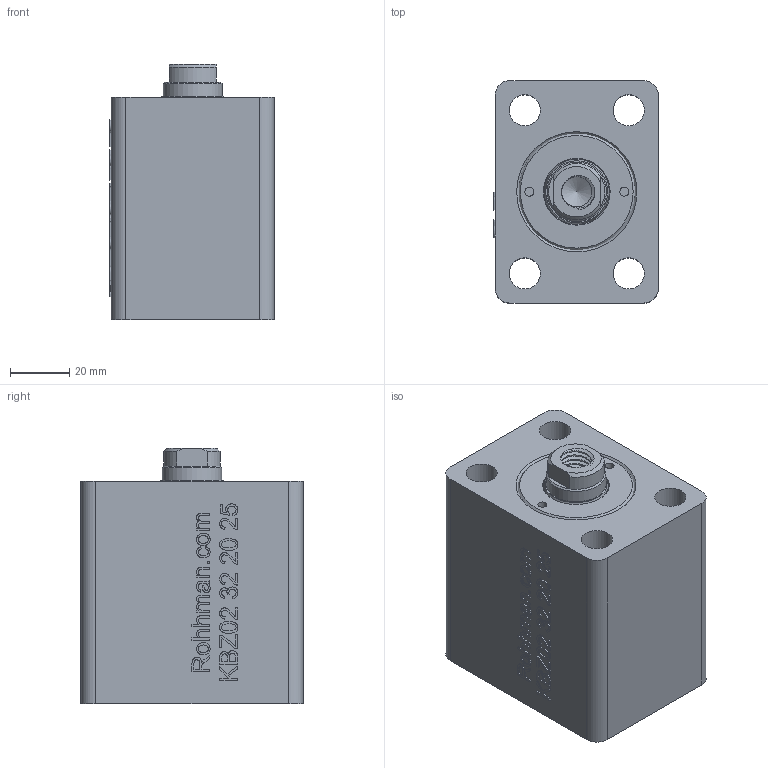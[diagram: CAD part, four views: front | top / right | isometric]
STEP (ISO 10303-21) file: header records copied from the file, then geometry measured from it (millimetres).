
FILE_DESCRIPTION(/* description */ (''),/* implementation_level */ '2;1');
FILE_NAME(/* name */ 'C:/Users/TEKNO/YandexDisk/Traceparts/SelfPublishingProductsCatalogBasicTemplate_KINETICTR.xlsm/KBZ_02_32_20_25.step',/* time_stamp */ '2022-10-02T11:11:21+03:00',/* author */ (''),/* organization */ (''),/* preprocessor_version */ 'ST-DEVELOPER v19',/* originating_system */ 'Autodesk Translation Framework v11.7.0.108',/* authorisation */ '');
FILE_SCHEMA (('AUTOMOTIVE_DESIGN { 1 0 10303 214 3 1 1 }'));
Products named in the file (10): KBZ_02_32_20_40_WEB; KBZ_02_32-20_ON_KAPAK; 20_23_8; Component1; K06-20X25X4_3X6; K22-20X26X3_5; KBZ_02_32_40_GOVDE; Component1_1; 20_K_MIL_40_WEB; Component1_2
Assembly tree (9 placements, depth 4):
  KBZ_02_32_20_40_WEB
    KBZ_02_32-20_ON_KAPAK
      20_23_8
        Component1
      K06-20X25X4_3X6
      K22-20X26X3_5
    KBZ_02_32_40_GOVDE
      Component1_1
    20_K_MIL_40_WEB
      Component1_2
Bounding box: 55.5 x 75 x 86 mm (x, y, z)
Volume: 232008.7 mm3; surface area: 62144.3 mm2
Topology: 6 solids, 6 shells, 754 faces, 2044 edges, 1350 vertices
Faces by surface type: bspline 361, plane 208, cylinder 133, cone 43, torus 9
Full cylindrical faces by diameter (mm): 3 x4, 9.836 x5, 10.274 x7, 10.5 x4, 11.834 x6, 12.226 x8, 13.157 x14, 16 x1, 16.5 x4, 20 x2, 20.4 x1, 20.5 x2, 21.2 x1, 22 x1, 23 x2, 25 x2, 26 x2, 30.4 x1, 32 x1, 35 x2, 35.5 x1, 38.132 x8, 38.526 x8, 39.85 x8, 40.208 x9
Entity records: 44166 total; most frequent: CARTESIAN_POINT 27615, ORIENTED_EDGE 4078, DIRECTION 2135, EDGE_CURVE 2039, VERTEX_POINT 1348, B_SPLINE_CURVE_WITH_KNOTS 928, LINE 903, VECTOR 903
